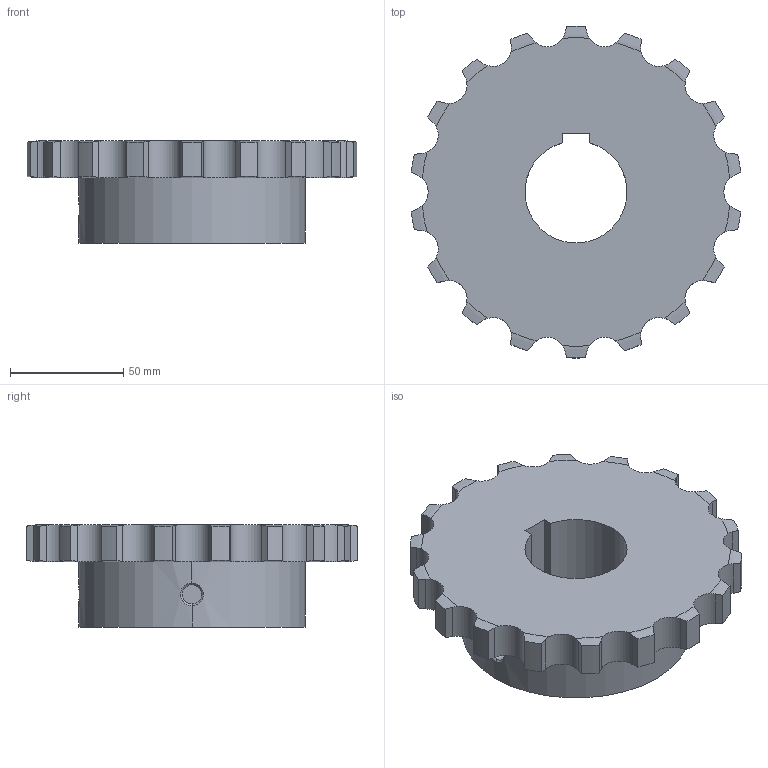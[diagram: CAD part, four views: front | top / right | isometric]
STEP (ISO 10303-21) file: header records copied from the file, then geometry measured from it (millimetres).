
FILE_DESCRIPTION((''),'2;1');
FILE_NAME('510-501-4518_PRT','2021-02-13T',('Brieden'),('Brieden'),'PRO/ENGINEER BY PARAMETRIC TECHNOLOGY CORPORATION, 2010160','PRO/ENGINEER BY PARAMETRIC TECHNOLOGY CORPORATION, 2010160','');
FILE_SCHEMA(('AUTOMOTIVE_DESIGN { 1 0 10303 214 1 1 1 1 }'));
Length unit declared in the file: millimetre
Products named in the file (1): 510-501-4518_PRT
Bounding box: 145.23 x 146.26 x 45 mm (x, y, z)
Volume: 393855.2 mm3; surface area: 52513.8 mm2
Topology: 1 solids, 1 shells, 129 faces, 369 edges, 244 vertices
Faces by surface type: cylinder 79, torus 36, plane 8, bspline 6
Entity records: 6456 total; most frequent: CARTESIAN_POINT 2117, ORIENTED_EDGE 738, DIRECTION 577, PRESENTATION_STYLE_ASSIGNMENT 370, STYLED_ITEM 370, CURVE_STYLE 369, EDGE_CURVE 369, VERTEX_POINT 244
